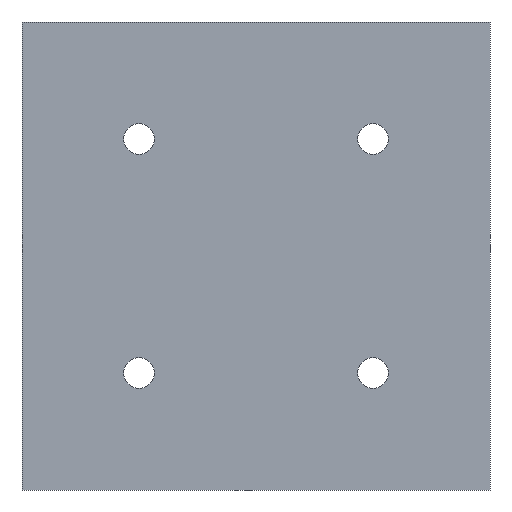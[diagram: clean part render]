
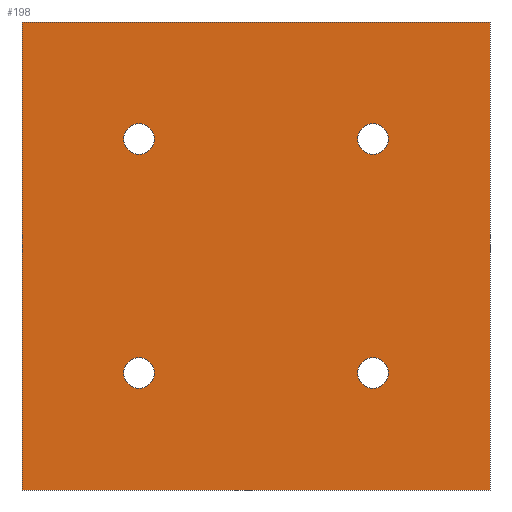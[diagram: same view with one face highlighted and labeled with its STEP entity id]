
A CAD part, front view. The second image highlights one B-rep face of the part: STEP entity #198.
In plain terms, the highlighted planar face has unit normal (0, -1, 0).
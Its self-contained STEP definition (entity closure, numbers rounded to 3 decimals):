
#19=FACE_BOUND('',#53,.T.);
#20=FACE_BOUND('',#54,.T.);
#21=FACE_BOUND('',#55,.T.);
#22=FACE_BOUND('',#56,.T.);
#28=PLANE('',#239);
#38=FACE_OUTER_BOUND('',#52,.T.);
#52=EDGE_LOOP('',(#177,#178,#179,#180));
#53=EDGE_LOOP('',(#181));
#54=EDGE_LOOP('',(#182));
#55=EDGE_LOOP('',(#183));
#56=EDGE_LOOP('',(#184));
#59=LINE('',#310,#75);
#64=LINE('',#324,#80);
#68=LINE('',#336,#84);
#71=LINE('',#341,#87);
#75=VECTOR('',#258,10.);
#80=VECTOR('',#271,10.);
#84=VECTOR('',#283,10.);
#87=VECTOR('',#288,10.);
#90=CIRCLE('',#224,1.65);
#92=CIRCLE('',#227,1.65);
#94=CIRCLE('',#231,1.65);
#96=CIRCLE('',#235,1.65);
#98=VERTEX_POINT('',#298);
#100=VERTEX_POINT('',#304);
#101=VERTEX_POINT('',#308);
#102=VERTEX_POINT('',#309);
#106=VERTEX_POINT('',#319);
#107=VERTEX_POINT('',#323);
#110=VERTEX_POINT('',#331);
#111=VERTEX_POINT('',#335);
#115=EDGE_CURVE('',#98,#98,#90,.T.);
#118=EDGE_CURVE('',#100,#100,#92,.T.);
#119=EDGE_CURVE('',#101,#102,#59,.T.);
#125=EDGE_CURVE('',#106,#106,#94,.T.);
#126=EDGE_CURVE('',#107,#101,#64,.T.);
#131=EDGE_CURVE('',#110,#110,#96,.T.);
#132=EDGE_CURVE('',#111,#107,#68,.T.);
#135=EDGE_CURVE('',#102,#111,#71,.T.);
#177=ORIENTED_EDGE('',*,*,#132,.F.);
#178=ORIENTED_EDGE('',*,*,#135,.F.);
#179=ORIENTED_EDGE('',*,*,#119,.F.);
#180=ORIENTED_EDGE('',*,*,#126,.F.);
#181=ORIENTED_EDGE('',*,*,#125,.F.);
#182=ORIENTED_EDGE('',*,*,#115,.F.);
#183=ORIENTED_EDGE('',*,*,#118,.F.);
#184=ORIENTED_EDGE('',*,*,#131,.F.);
#198=ADVANCED_FACE('',(#38,#19,#20,#21,#22),#28,.F.);
#224=AXIS2_PLACEMENT_3D('',#300,#247,#248);
#227=AXIS2_PLACEMENT_3D('',#306,#254,#255);
#231=AXIS2_PLACEMENT_3D('',#321,#267,#268);
#235=AXIS2_PLACEMENT_3D('',#333,#279,#280);
#239=AXIS2_PLACEMENT_3D('',#344,#292,#293);
#247=DIRECTION('center_axis',(0.,-1.,0.));
#248=DIRECTION('ref_axis',(1.,0.,0.));
#254=DIRECTION('center_axis',(0.,-1.,0.));
#255=DIRECTION('ref_axis',(1.,0.,0.));
#258=DIRECTION('',(0.,0.,1.));
#267=DIRECTION('center_axis',(0.,-1.,0.));
#268=DIRECTION('ref_axis',(1.,0.,0.));
#271=DIRECTION('',(-1.,0.,0.));
#279=DIRECTION('center_axis',(0.,-1.,0.));
#280=DIRECTION('ref_axis',(1.,0.,0.));
#283=DIRECTION('',(0.,0.,-1.));
#288=DIRECTION('',(1.,0.,0.));
#292=DIRECTION('center_axis',(0.,1.,0.));
#293=DIRECTION('ref_axis',(0.,0.,1.));
#298=CARTESIAN_POINT('',(-39.15,0.,-37.5));
#300=CARTESIAN_POINT('Origin',(-37.5,0.,-37.5));
#304=CARTESIAN_POINT('',(-39.15,0.,-12.5));
#306=CARTESIAN_POINT('Origin',(-37.5,0.,-12.5));
#308=CARTESIAN_POINT('',(-50.,0.,-50.));
#309=CARTESIAN_POINT('',(-50.,0.,0.));
#310=CARTESIAN_POINT('',(-50.,0.,-50.));
#319=CARTESIAN_POINT('',(-14.15,0.,-37.5));
#321=CARTESIAN_POINT('Origin',(-12.5,0.,-37.5));
#323=CARTESIAN_POINT('',(0.,0.,-50.));
#324=CARTESIAN_POINT('',(0.,0.,-50.));
#331=CARTESIAN_POINT('',(-14.15,0.,-12.5));
#333=CARTESIAN_POINT('Origin',(-12.5,0.,-12.5));
#335=CARTESIAN_POINT('',(0.,0.,0.));
#336=CARTESIAN_POINT('',(0.,0.,0.));
#341=CARTESIAN_POINT('',(-50.,0.,0.));
#344=CARTESIAN_POINT('Origin',(-12.5,0.,-12.5));
